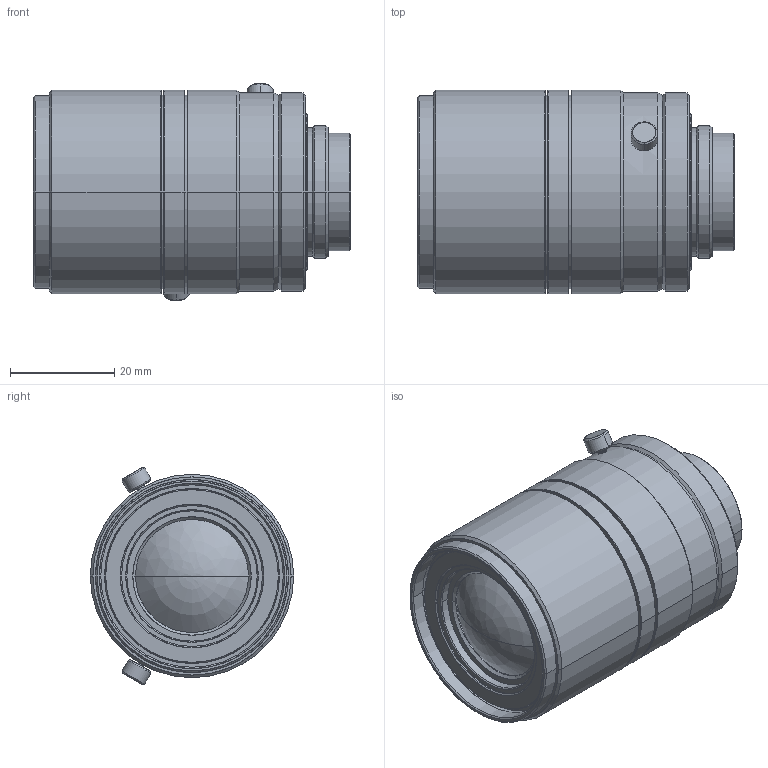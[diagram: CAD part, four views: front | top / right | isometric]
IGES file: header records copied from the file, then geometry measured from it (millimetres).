
Start section: SolidWorks IGES file using analytic representation for surfaces
Global section: file name: \\192.168.1.203\Development\06 俠俠俿倁儗儞僘\02 SV-H series\008 SV-0814H\3D\SV-0814H.IGS; native system: SolidWorks 2012; preprocessor: SolidWorks 2012; author: a-3DCAD2; date: 120601.162537; units: millimetre
Bounding box: 60.82 x 39 x 41.69 mm (x, y, z)
Surface area: 10779.6 mm2 (no closed solid volume)
Topology: 0 solids, 0 shells, 128 faces, 2290 edges, 2289 vertices
Faces by surface type: revolution 108, bspline 20
